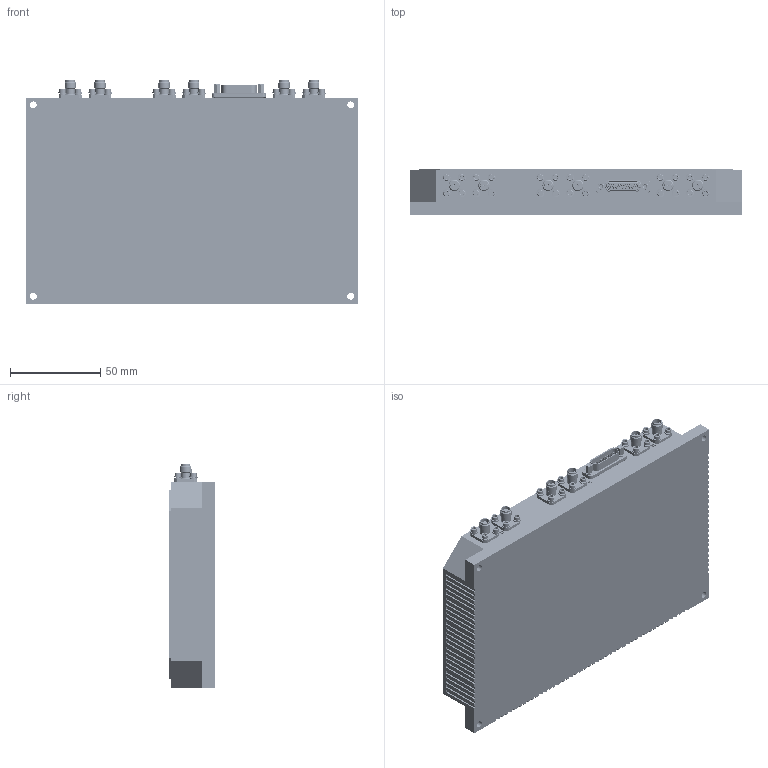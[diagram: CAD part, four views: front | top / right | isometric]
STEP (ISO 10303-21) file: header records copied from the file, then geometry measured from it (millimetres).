
FILE_DESCRIPTION (( 'STEP AP214' ), '1' );
FILE_NAME ('A6116-1000 - no insides.STEP', '2023-12-22T16:22:06', ( '' ), ( '' ), 'SwSTEP 2.0', 'SolidWorks 2021', '' );
FILE_SCHEMA (( 'AUTOMOTIVE_DESIGN' ));
Length unit declared in the file: inch
Products named in the file (22): A6034-1540; FS-SCREW STACK UP 2-56 x .250 long; A6116-1600; A6116-1000 - no insides; A6116-1100; 90945A705 (9900326) - WASHER, FLAT, SS, #2, .15 OD X .01 THK_90945A705; 92146A510 (0171926) - WASHER, SPLIT-LOCK, SS, #0, .14 OD X .01 THK_92146A510; 92146A520 (71051) - WASHER, SPLIT-LOCK, SS, #2, .18 OD X .02 THK_92146A520; 132707 - CONNECTOR, ADAPTER, SMA-SMA, FLANGE, 4 HOLE; 92196A054 (73379) - SCREW, SHCS, SS, #0-80 X .188L_92196A054; MDM25SH003; MDM JACK POST LOCK_98449A500; A6116-1650; MDM JACK POST_91075A512; A6116-1200; 92196A077 (73399) - SCREW, SHCS, SS, #2-56 X .250L_92196A077; 5710-120-16 - WASHER, FLAT, SS, #0, .13 OD X .02 THK_92141A001; 96640A023 (0145196) - SCREW, PFHMS, SS, #2-56 X .250L, BLACK OXIDE_96640A023; 440166; STRAIGHT COAX; FS-SCREW STACK UP 0-80 x .188 long; 132340 - CONNECTOR, ADAPTER, SMA-SMA, FLANGE, 4 HOLE
Assembly tree (90 placements, depth 3):
  A6116-1000 - no insides
    A6116-1100
    A6116-1200
    A6116-1600
    A6116-1650
    MDM25SH003
    MDM JACK POST_91075A512  x2
    MDM JACK POST LOCK_98449A500  x2
    132340 - CONNECTOR, ADAPTER, SMA-SMA, FLANGE, 4 HOLE  x2
    132707 - CONNECTOR, ADAPTER, SMA-SMA, FLANGE, 4 HOLE  x4
    A6034-1540  x3
    96640A023 (0145196) - SCREW, PFHMS, SS, #2-56 X .250L, BLACK OXIDE_96640A023  x36
    FS-SCREW STACK UP 2-56 x .250 long  x24
      92196A077 (73399) - SCREW, SHCS, SS, #2-56 X .250L_92196A077
      92146A520 (71051) - WASHER, SPLIT-LOCK, SS, #2, .18 OD X .02 THK_92146A520
      90945A705 (9900326) - WASHER, FLAT, SS, #2, .15 OD X .01 THK_90945A705
    440166
    FS-SCREW STACK UP 0-80 x .188 long
      92196A054 (73379) - SCREW, SHCS, SS, #0-80 X .188L_92196A054
      92146A510 (0171926) - WASHER, SPLIT-LOCK, SS, #0, .14 OD X .01 THK_92146A510
      5710-120-16 - WASHER, FLAT, SS, #0, .13 OD X .02 THK_92141A001
    STRAIGHT COAX  x4
Bounding box: 184.15 x 25.48 x 123.8 mm (x, y, z)
Volume: 205163.6 mm3; surface area: 149239.7 mm2
Topology: 187 solids, 189 shells, 11146 faces, 29510 edges, 19064 vertices
Faces by surface type: cylinder 4037, plane 3657, bspline 1898, cone 1466, torus 88
Entity records: 295375 total; most frequent: CARTESIAN_POINT 124514, ORIENTED_EDGE 32606, DIRECTION 25045, EDGE_CURVE 16304, VERTEX_POINT 10663, VECTOR 9523, LINE 9523, AXIS2_PLACEMENT_3D 7761
